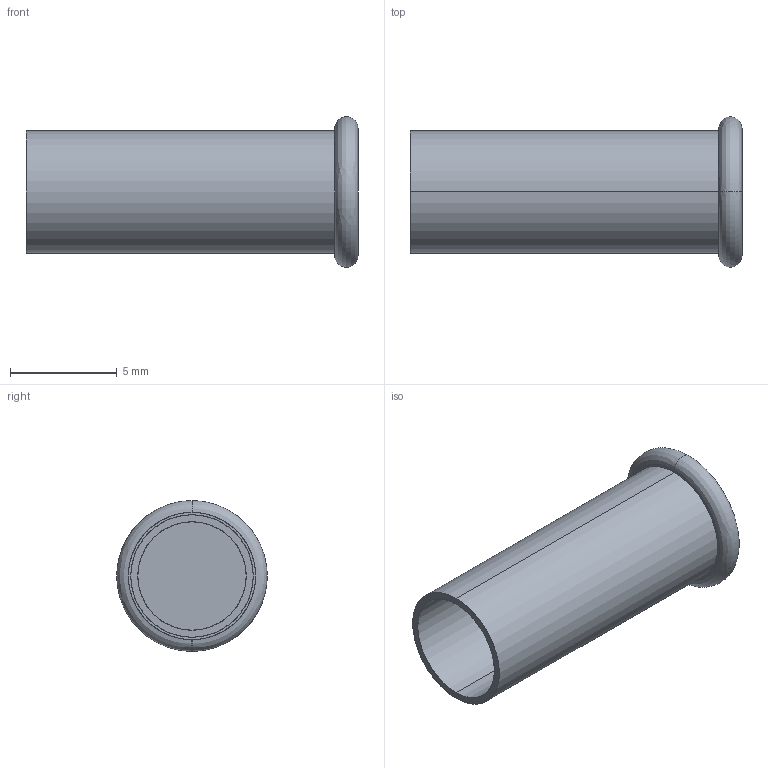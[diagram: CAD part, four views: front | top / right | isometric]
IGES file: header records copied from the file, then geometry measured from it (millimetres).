
Start section: SolidWorks IGES file using analytic representation for surfaces
Global section: file name: C:\Users\Shane\Desktop\22LR-Case.IGS; native system: SolidWorks 2011; preprocessor: SolidWorks 2011; author: Shane; date: 120428.213634; units: inch
Bounding box: 15.57 x 7.06 x 7.06 mm (x, y, z)
Surface area: 581.2 mm2 (no closed solid volume)
Topology: 0 solids, 0 shells, 10 faces, 216 edges, 216 vertices
Faces by surface type: bspline 6, revolution 4
